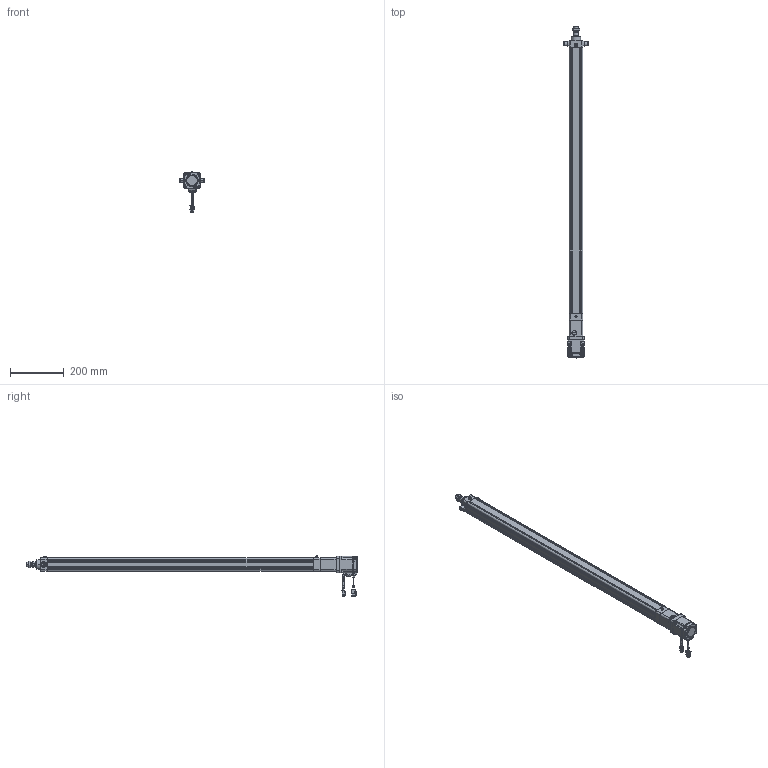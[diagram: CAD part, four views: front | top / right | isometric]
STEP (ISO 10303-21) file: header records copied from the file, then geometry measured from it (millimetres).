
FILE_DESCRIPTION((''),'2;1');
FILE_NAME('HE40-D-100_ASM','2020-05-25T',('ASUS20200'),(''),'CREO PARAMETRIC BY PTC INC, 2014190','CREO PARAMETRIC BY PTC INC, 2014190','');
FILE_SCHEMA(('CONFIG_CONTROL_DESIGN'));
Length unit declared in the file: millimetre
Products named in the file (26): HE40-D-P-001-X1; HE40-D-P-002-X1; HE40-D-P-003-X1; 6200ZZ; HE40-D-009-X1; HE40-D-010-X1; _MHMF022L1A2; _CABLE_MOTOR_BOTTOM_03; _CABLE_MOTOR_TOP_03; _MOTOR_CONNECTOR_2; _CABLE_BRAKE_BOTTOM_03; _CABLE_BRAKE_TOP_03; _MHMF_CONNECTOR_9_PIN_A6; MHMF022L1A2M2_1_ASM; MHMF022L1A2M2_ASM; SLM-01; YZ-M6X1; JDB202820; SKT-13; JX5X5X20; HE40-TC; HE40-D-P-005-X1; HE40-D-P-004-X1; HE40-D-P-008-X1; LGLM-M6-22; HE40-D-100_ASM
Assembly tree (29 placements, depth 4):
  HE40-D-100_ASM
    HE40-D-P-001-X1
    HE40-D-P-002-X1
    HE40-D-P-003-X1
    6200ZZ
    HE40-D-009-X1
    HE40-D-010-X1
    MHMF022L1A2M2_ASM
      MHMF022L1A2M2_1_ASM
        _MHMF022L1A2
        _CABLE_MOTOR_BOTTOM_03
        _CABLE_MOTOR_TOP_03
        _MOTOR_CONNECTOR_2
        _CABLE_BRAKE_BOTTOM_03
        _CABLE_BRAKE_TOP_03
        _MHMF_CONNECTOR_9_PIN_A6
    SLM-01
    YZ-M6X1
    JDB202820
    SKT-13
    JX5X5X20
    HE40-TC  x2
    HE40-D-P-005-X1
    HE40-D-P-004-X1
    HE40-D-P-008-X1
    LGLM-M6-22  x4
Bounding box: 91 x 1238.5 x 152.7 mm (x, y, z)
Volume: 1522366.8 mm3; surface area: 620644.6 mm2
Topology: 27 solids, 54 shells, 2173 faces, 5317 edges, 3315 vertices
Faces by surface type: plane 880, cylinder 681, cone 486, torus 86, sphere 36, bspline 4
Entity records: 61941 total; most frequent: CARTESIAN_POINT 11863, DIRECTION 11042, ORIENTED_EDGE 9834, EDGE_CURVE 4971, AXIS2_PLACEMENT_3D 4155, VERTEX_POINT 3133, VECTOR 2732, LINE 2732
